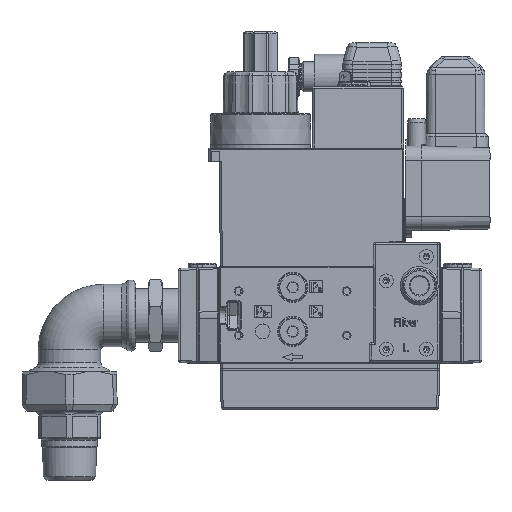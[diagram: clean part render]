
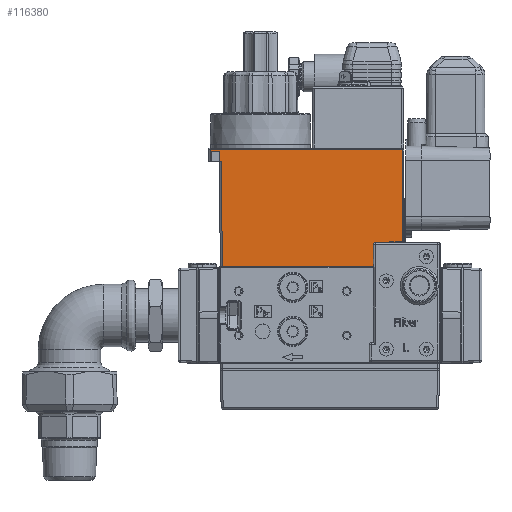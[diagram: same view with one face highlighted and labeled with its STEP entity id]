
A CAD part, top view. The second image highlights one B-rep face of the part: STEP entity #116380.
In plain terms, the highlighted planar face has unit normal (0, -0.006, 1).
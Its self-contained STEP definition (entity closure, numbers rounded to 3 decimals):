
#992 = CARTESIAN_POINT ( 'NONE',  ( 155.046, 68.3, 37.22 ) ) ;
#1026 = ORIENTED_EDGE ( 'NONE', *, *, #163435, .T. ) ;
#1464 = CARTESIAN_POINT ( 'NONE',  ( 146.846, 67.886, 37.217 ) ) ;
#4478 = DIRECTION ( 'NONE',  ( 1., 0., 0. ) ) ;
#5952 = EDGE_CURVE ( 'NONE', #123514, #177069, #126127, .T. ) ;
#7807 = CARTESIAN_POINT ( 'NONE',  ( 65.823, 114.817, 37.49 ) ) ;
#10349 = DIRECTION ( 'NONE',  ( 0., 1., 0.006 ) ) ;
#11659 = DIRECTION ( 'NONE',  ( 0.006, 1., 0.006 ) ) ;
#14292 = VECTOR ( 'NONE', #220873, 1000. ) ;
#16104 = CARTESIAN_POINT ( 'NONE',  ( 161.348, 68.62, 37.222 ) ) ;
#17347 = VECTOR ( 'NONE', #59881, 1000. ) ;
#18779 = CARTESIAN_POINT ( 'NONE',  ( 146.847, 56.32, 37.15 ) ) ;
#21348 = VECTOR ( 'NONE', #145873, 1000. ) ;
#21462 = LINE ( 'NONE', #159638, #219350 ) ;
#21968 = ORIENTED_EDGE ( 'NONE', *, *, #79195, .T. ) ;
#24863 = VERTEX_POINT ( 'NONE', #43059 ) ;
#27068 = CARTESIAN_POINT ( 'NONE',  ( 65.823, 114.817, 37.49 ) ) ;
#27218 = CARTESIAN_POINT ( 'NONE',  ( 161.617, 114.817, 37.49 ) ) ;
#27401 = DIRECTION ( 'NONE',  ( 0.006, -1., -0.006 ) ) ;
#27587 = LINE ( 'NONE', #59396, #221891 ) ;
#29371 = VERTEX_POINT ( 'NONE', #18779 ) ;
#29554 = LINE ( 'NONE', #165510, #189907 ) ;
#32766 = VERTEX_POINT ( 'NONE', #88007 ) ;
#36858 = LINE ( 'NONE', #95723, #153774 ) ;
#37683 = VERTEX_POINT ( 'NONE', #79161 ) ;
#38697 = EDGE_CURVE ( 'NONE', #74072, #24863, #216957, .T. ) ;
#38968 = VECTOR ( 'NONE', #27401, 1000. ) ;
#41153 = ORIENTED_EDGE ( 'NONE', *, *, #65848, .T. ) ;
#43059 = CARTESIAN_POINT ( 'NONE',  ( 155.046, 68.3, 37.22 ) ) ;
#45035 = VERTEX_POINT ( 'NONE', #177728 ) ;
#45552 = LINE ( 'NONE', #16104, #14292 ) ;
#50552 = CARTESIAN_POINT ( 'NONE',  ( 155.048, 68.62, 37.222 ) ) ;
#54143 = DIRECTION ( 'NONE',  ( 0.006, 1., 0.006 ) ) ;
#56257 = ORIENTED_EDGE ( 'NONE', *, *, #153254, .T. ) ;
#58515 = LINE ( 'NONE', #123296, #139635 ) ;
#59396 = CARTESIAN_POINT ( 'NONE',  ( 161.777, 108.82, 37.455 ) ) ;
#59881 = DIRECTION ( 'NONE',  ( 0.006, -1., -0.006 ) ) ;
#60237 = EDGE_CURVE ( 'NONE', #177069, #37683, #214868, .T. ) ;
#61474 = ORIENTED_EDGE ( 'NONE', *, *, #38697, .T. ) ;
#65848 = EDGE_CURVE ( 'NONE', #37683, #192534, #27587, .T. ) ;
#66453 = EDGE_CURVE ( 'NONE', #170498, #45035, #36858, .T. ) ;
#67879 = EDGE_CURVE ( 'NONE', #123567, #74072, #172572, .T. ) ;
#70593 = CARTESIAN_POINT ( 'NONE',  ( 147.846, 68.3, 37.22 ) ) ;
#71095 = DIRECTION ( 'NONE',  ( 1., 0., 0. ) ) ;
#74072 = VERTEX_POINT ( 'NONE', #162975 ) ;
#76244 = DIRECTION ( 'NONE',  ( -1., 0., 0. ) ) ;
#79161 = CARTESIAN_POINT ( 'NONE',  ( 65.858, 108.82, 37.455 ) ) ;
#79195 = EDGE_CURVE ( 'NONE', #24863, #214465, #141370, .T. ) ;
#79801 = DIRECTION ( 'NONE',  ( 1., 0., 0. ) ) ;
#85051 = CARTESIAN_POINT ( 'NONE',  ( 161.348, 68.62, 37.222 ) ) ;
#88007 = CARTESIAN_POINT ( 'NONE',  ( 71.748, 56.32, 37.15 ) ) ;
#88116 = LINE ( 'NONE', #157116, #195122 ) ;
#91509 = DIRECTION ( 'NONE',  ( 1., 0., 0. ) ) ;
#95278 = DIRECTION ( 'NONE',  ( 0.006, -1., -0.006 ) ) ;
#95723 = CARTESIAN_POINT ( 'NONE',  ( 161.777, 108.82, 37.455 ) ) ;
#96377 = LINE ( 'NONE', #166492, #124348 ) ;
#97670 = CARTESIAN_POINT ( 'NONE',  ( 161.777, 56.32, 37.15 ) ) ;
#101303 = CARTESIAN_POINT ( 'NONE',  ( 66.358, 108.82, 37.455 ) ) ;
#106253 = VERTEX_POINT ( 'NONE', #85051 ) ;
#108129 = ORIENTED_EDGE ( 'NONE', *, *, #5952, .T. ) ;
#109745 = EDGE_LOOP ( 'NONE', ( #141308, #151935, #61474, #21968, #158454, #191805, #108129, #173772, #41153, #167779, #1026, #56257, #134110, #190854, #161804 ) ) ;
#111418 = CARTESIAN_POINT ( 'NONE',  ( 161.777, 114.817, 37.49 ) ) ;
#114226 = CARTESIAN_POINT ( 'NONE',  ( 161.777, 68.3, 37.22 ) ) ;
#114625 = VECTOR ( 'NONE', #11659, 1000. ) ;
#116380 = ADVANCED_FACE ( 'NONE', ( #185817 ), #130507, .T. ) ;
#123296 = CARTESIAN_POINT ( 'NONE',  ( 161.777, 56.32, 37.15 ) ) ;
#123514 = VERTEX_POINT ( 'NONE', #27218 ) ;
#123567 = VERTEX_POINT ( 'NONE', #166537 ) ;
#124348 = VECTOR ( 'NONE', #95278, 1000. ) ;
#126127 = LINE ( 'NONE', #111418, #176790 ) ;
#127302 = CARTESIAN_POINT ( 'NONE',  ( 70.414, 113.82, 37.485 ) ) ;
#127889 = CARTESIAN_POINT ( 'NONE',  ( 66.387, 113.82, 37.485 ) ) ;
#129581 = LINE ( 'NONE', #217568, #114625 ) ;
#130507 = PLANE ( 'NONE',  #214041 ) ;
#133781 = DIRECTION ( 'NONE',  ( 0., -0.006, 1. ) ) ;
#134110 = ORIENTED_EDGE ( 'NONE', *, *, #66453, .T. ) ;
#138519 = CARTESIAN_POINT ( 'NONE',  ( 147.26, 68.3, 37.22 ) ) ;
#139635 = VECTOR ( 'NONE', #91509, 1000. ) ;
#141308 = ORIENTED_EDGE ( 'NONE', *, *, #176742, .F. ) ;
#141370 = LINE ( 'NONE', #992, #150384 ) ;
#145210 = DIRECTION ( 'NONE',  ( 0., -1., -0.006 ) ) ;
#145873 = DIRECTION ( 'NONE',  ( 1., 0., 0. ) ) ;
#148843 = DIRECTION ( 'NONE',  ( 1., 0., 0. ) ) ;
#149494 = EDGE_CURVE ( 'NONE', #45035, #32766, #175102, .T. ) ;
#150384 = VECTOR ( 'NONE', #54143, 1000. ) ;
#151935 = ORIENTED_EDGE ( 'NONE', *, *, #67879, .T. ) ;
#153254 = EDGE_CURVE ( 'NONE', #156813, #170498, #96377, .T. ) ;
#153774 = VECTOR ( 'NONE', #79801, 1000. ) ;
#156813 = VERTEX_POINT ( 'NONE', #127302 ) ;
#157116 = CARTESIAN_POINT ( 'NONE',  ( 161.777, 113.82, 37.485 ) ) ;
#158454 = ORIENTED_EDGE ( 'NONE', *, *, #192057, .T. ) ;
#159638 = CARTESIAN_POINT ( 'NONE',  ( 161.777, 68.62, 37.222 ) ) ;
#161804 = ORIENTED_EDGE ( 'NONE', *, *, #202225, .T. ) ;
#162975 = CARTESIAN_POINT ( 'NONE',  ( 147.846, 68.3, 37.22 ) ) ;
#163210 = EDGE_CURVE ( 'NONE', #106253, #123514, #45552, .T. ) ;
#163435 = EDGE_CURVE ( 'NONE', #212391, #156813, #88116, .T. ) ;
#165510 = CARTESIAN_POINT ( 'NONE',  ( 146.846, 67.3, 37.214 ) ) ;
#166492 = CARTESIAN_POINT ( 'NONE',  ( 70.414, 113.82, 37.485 ) ) ;
#166537 = CARTESIAN_POINT ( 'NONE',  ( 146.846, 67.3, 37.214 ) ) ;
#167779 = ORIENTED_EDGE ( 'NONE', *, *, #191519, .T. ) ;
#170498 = VERTEX_POINT ( 'NONE', #208840 ) ;
#172572 =( BOUNDED_CURVE ( )  B_SPLINE_CURVE ( 3, ( #208488, #1464, #138519, #70593 ),
 .UNSPECIFIED., .F., .F. ) 
 B_SPLINE_CURVE_WITH_KNOTS ( ( 4, 4 ),
 ( 5.356, 6.927 ),
 .UNSPECIFIED. ) 
 CURVE ( )  GEOMETRIC_REPRESENTATION_ITEM ( )  RATIONAL_B_SPLINE_CURVE ( ( 1., 0.805, 0.805, 1. ) ) 
 REPRESENTATION_ITEM ( '' )  );
#173772 = ORIENTED_EDGE ( 'NONE', *, *, #60237, .T. ) ;
#175102 = LINE ( 'NONE', #176200, #38968 ) ;
#176200 = CARTESIAN_POINT ( 'NONE',  ( 71.443, 108.82, 37.455 ) ) ;
#176742 = EDGE_CURVE ( 'NONE', #123567, #29371, #29554, .T. ) ;
#176790 = VECTOR ( 'NONE', #76244, 1000. ) ;
#177069 = VERTEX_POINT ( 'NONE', #27068 ) ;
#177728 = CARTESIAN_POINT ( 'NONE',  ( 71.443, 108.82, 37.455 ) ) ;
#185817 = FACE_OUTER_BOUND ( 'NONE', #109745, .T. ) ;
#189907 = VECTOR ( 'NONE', #145210, 1000. ) ;
#190854 = ORIENTED_EDGE ( 'NONE', *, *, #149494, .T. ) ;
#191519 = EDGE_CURVE ( 'NONE', #192534, #212391, #129581, .T. ) ;
#191805 = ORIENTED_EDGE ( 'NONE', *, *, #163210, .T. ) ;
#192057 = EDGE_CURVE ( 'NONE', #214465, #106253, #21462, .T. ) ;
#192534 = VERTEX_POINT ( 'NONE', #101303 ) ;
#195122 = VECTOR ( 'NONE', #71095, 1000. ) ;
#202225 = EDGE_CURVE ( 'NONE', #32766, #29371, #58515, .T. ) ;
#208488 = CARTESIAN_POINT ( 'NONE',  ( 146.846, 67.3, 37.214 ) ) ;
#208840 = CARTESIAN_POINT ( 'NONE',  ( 70.443, 108.82, 37.455 ) ) ;
#212391 = VERTEX_POINT ( 'NONE', #127889 ) ;
#214041 = AXIS2_PLACEMENT_3D ( 'NONE', #97670, #133781, #10349 ) ;
#214465 = VERTEX_POINT ( 'NONE', #50552 ) ;
#214868 = LINE ( 'NONE', #7807, #17347 ) ;
#216957 = LINE ( 'NONE', #114226, #21348 ) ;
#217568 = CARTESIAN_POINT ( 'NONE',  ( 66.358, 108.82, 37.455 ) ) ;
#219350 = VECTOR ( 'NONE', #4478, 1000. ) ;
#220873 = DIRECTION ( 'NONE',  ( 0.006, 1., 0.006 ) ) ;
#221891 = VECTOR ( 'NONE', #148843, 1000. ) ;
